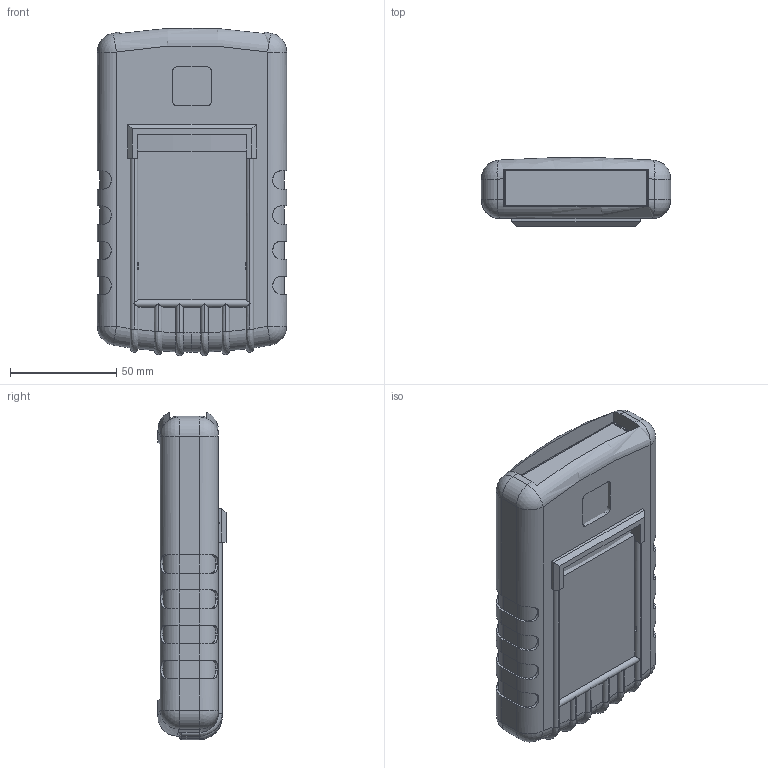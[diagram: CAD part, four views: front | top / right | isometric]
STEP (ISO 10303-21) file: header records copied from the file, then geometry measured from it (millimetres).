
FILE_DESCRIPTION (( 'STEP AP214' ), '1' );
FILE_NAME ('70-12-9V-R-BO.STEP', '2020-09-28T14:07:53', ( 'Rudy' ), ( '' ), 'SwSTEP 2.0', 'SolidWorks 2014', '' );
FILE_SCHEMA (( 'AUTOMOTIVE_DESIGN' ));
Length unit declared in the file: millimetre
Products named in the file (7): bat door; 70 RBT; 65 PCB W BAT; end plate; 70 Top Recessed; 9V; 70-12-9V-R-BO
Assembly tree (6 placements, depth 2):
  70-12-9V-R-BO
    9V
    70 Top Recessed
    end plate
    65 PCB W BAT
    70 RBT
    bat door
Bounding box: 88.9 x 31.99 x 153.77 mm (x, y, z)
Volume: 160584.7 mm3; surface area: 129425.6 mm2
Topology: 6 solids, 6 shells, 810 faces, 2165 edges, 1384 vertices
Faces by surface type: plane 439, cylinder 252, bspline 48, torus 37, cone 18, sphere 16
Entity records: 28444 total; most frequent: CARTESIAN_POINT 8401, ORIENTED_EDGE 4322, DIRECTION 3934, EDGE_CURVE 2161, VERTEX_POINT 1384, AXIS2_PLACEMENT_3D 1313, VECTOR 1308, LINE 1308
